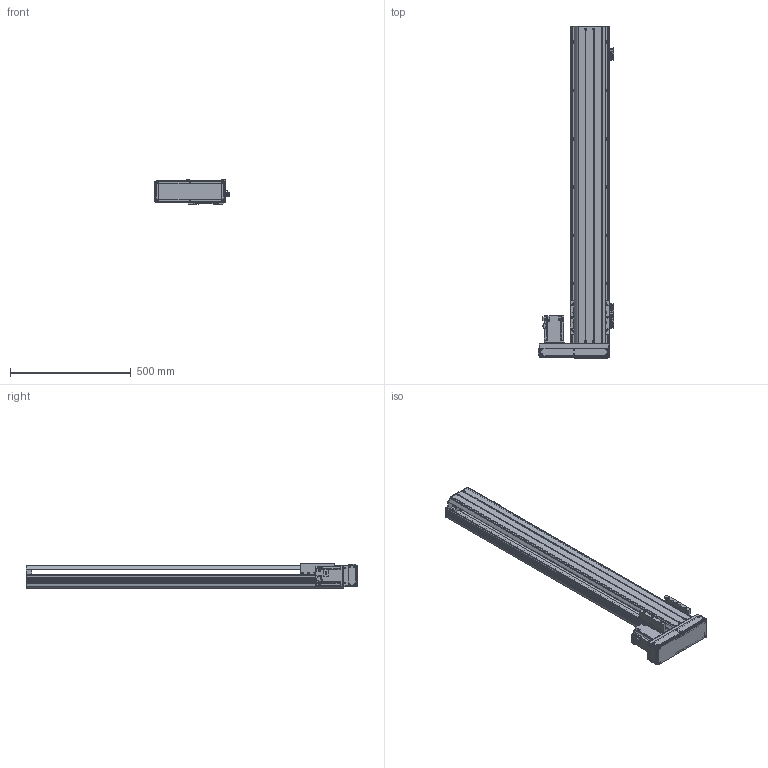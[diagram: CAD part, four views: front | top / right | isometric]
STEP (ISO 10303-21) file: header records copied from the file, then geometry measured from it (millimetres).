
FILE_DESCRIPTION(/* description */ ('MANUFACTURE'),/* implementation_level */ '2;1');
FILE_NAME(/* name */ '\\192.168.0.160\disk1\HAN SHIN Master\B-설계부문\C-표준\B-2024년\BC02-표준도면\+로봇 개선표준도면\홈페이지 표준 도면\홈페이지 최종 작업 폴더\3D\HR\HR160\HG160직렬\HR160-L70-N-1100-R10.stp',/* time_stamp */ '2025-01-20T09:56:14+09:00',/* author */ ('user'),/* organization */ (''),/* preprocessor_version */ 'ST-DEVELOPER v18.1',/* originating_system */ 'Autodesk Inventor 2022',/* authorisation */ 'LIP');
FILE_SCHEMA (('AUTOMOTIVE_DESIGN { 1 0 10303 214 3 1 1 }'));
Products named in the file (17): HR160-L70-N-0500-R10; HR160 S BASE (400W); HR140 FRONT BLOCK (20Pi)-N; HR140 REAR BLOCK (20Pi)-N; HR120 SENSOR DOG; HR160 TABLE (W,N); HR160 S UPCOVER; HR160 750W FRONT COVER; SENSOR BRK(EE-SX674A); EE_SX674A; HR160 400W LR BELT COVER; HG160 750W LR MOTOR PLATE-사출; HR180 ACRYL COVER - 1; HR180 ACRYL COVER - 1_1; hg-kr73_; HR180 ACRYL COVER - 1_2; 750W MOTOR PLATE
Assembly tree (21 placements, depth 2):
  HR160-L70-N-0500-R10
    HR160 S BASE (400W)
    SENSOR BRK(EE-SX674A)  x3
    EE_SX674A  x3
    HR140 FRONT BLOCK (20Pi)-N
    HR140 REAR BLOCK (20Pi)-N
    HR120 SENSOR DOG
    HR160 TABLE (W,N)
    HR160 S UPCOVER
    HR160 750W FRONT COVER
    HR160 400W LR BELT COVER
    HG160 750W LR MOTOR PLATE-사출
    HR180 ACRYL COVER - 1
    HR180 ACRYL COVER - 1_1
    HR180 ACRYL COVER - 1_2  x2
    hg-kr73_
    750W MOTOR PLATE
Bounding box: 312 x 1375 x 100 mm (x, y, z)
Volume: 6036907.7 mm3; surface area: 2038439.6 mm2
Topology: 21 solids, 21 shells, 3113 faces, 8775 edges, 5795 vertices
Faces by surface type: plane 2219, cylinder 768, cone 122, sphere 4
Full cylindrical faces by diameter (mm): 2.459 x52, 3 x6, 3.242 x16, 3.4 x20, 3.5 x6, 4 x8, 4.134 x8, 4.5 x18, 4.917 x48, 5 x20, 5.5 x21, 5.9 x4, 6 x10, 6.6 x28, 7 x4, 7.6 x4, 9 x6, 9.5 x17, 11 x22, 19 x1, 25 x1, 27 x1, 30 x1, 32 x1, 38 x1, 42 x2, 44.5 x1, 70 x2
Entity records: 98194 total; most frequent: CARTESIAN_POINT 19458, ORIENTED_EDGE 16430, DIRECTION 15265, EDGE_CURVE 8215, LINE 6485, VECTOR 6485, VERTEX_POINT 5479, AXIS2_PLACEMENT_3D 4390
